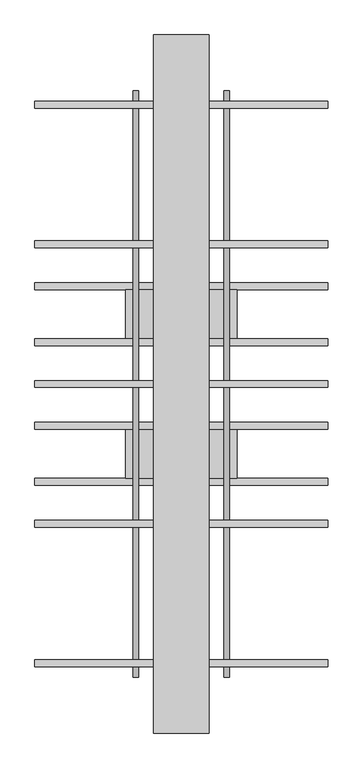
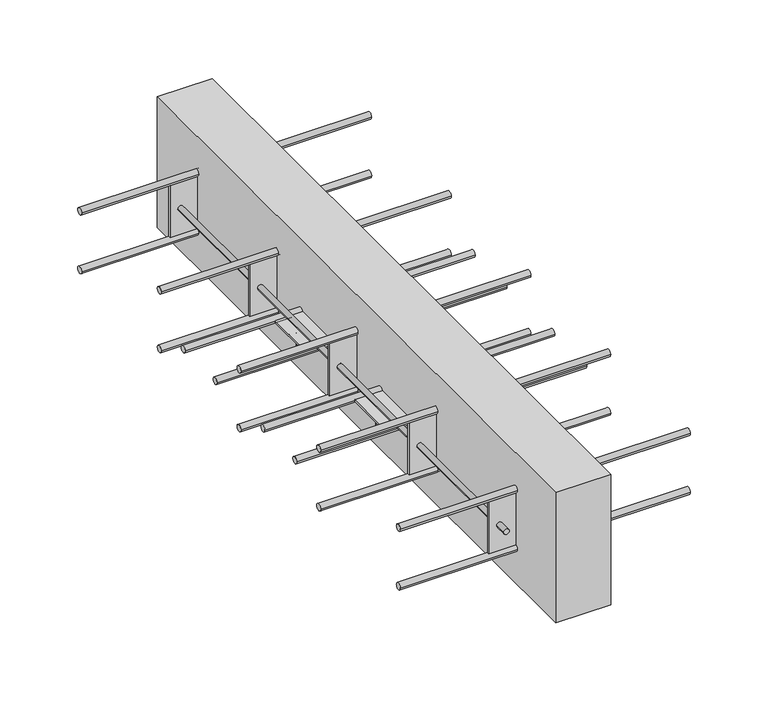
"""IFC4 building model written with IfcOpenShell, lengths in millimetres: proxy geometry, ACINOXplus_Typenreihe_Q : QD+ S2."""

from ifc_helpers import new_model, si_unit, point, frame, frame_2d, origin, place, context, project, spatial, polyline, circle_curve, trimmed, segment, composite_curve, outline, extrude, source, transform, mapped, element, save
from ifc_brep_helpers import plane_surface, cylinder_surface, advanced_brep


def generic_models_195bd89e(model_context):
    return source(origin(), model_context, "Body", "SolidModel", [
        extrude(outline(composite_curve([segment(trimmed(circle_curve(frame_2d((-140.0, -109.0)), 5.0), [point((-145.0, -109.0))], [point((-135.0, -109.0))], False, "CARTESIAN"), True, "CONTINUOUS"), segment(trimmed(circle_curve(frame_2d((-140.0, -109.0)), 5.0), [point((-135.0, -109.0))], [point((-145.0, -109.0))], False, "CARTESIAN"), True, "CONTINUOUS")], self_intersect=False)), frame((-210.0, 0.0, 0.0), z_axis=(1.0, 0.0, 0.0), x_axis=(0.0, 1.0, 0.0)), (0.0, 0.0, 1.0), 420.0),
        extrude(outline(composite_curve([segment(trimmed(circle_curve(frame_2d((-60.0, -109.0)), 5.0), [point((-65.0, -109.0))], [point((-55.0, -109.0))], False, "CARTESIAN"), True, "CONTINUOUS"), segment(trimmed(circle_curve(frame_2d((-60.0, -109.0)), 5.0), [point((-55.0, -109.0))], [point((-65.0, -109.0))], False, "CARTESIAN"), True, "CONTINUOUS")], self_intersect=False)), frame((-210.0, 0.0, 0.0), z_axis=(1.0, 0.0, 0.0), x_axis=(0.0, 1.0, 0.0)), (0.0, 0.0, 1.0), 420.0),
        advanced_brep(
        [(-69.0, -100.0, -137.0), (-61.0, -100.0, -137.0), (61.0, -100.0, -137.0), (69.0, -100.0, -137.0), (-61.0, -100.0, -110.5), (-69.0, -100.0, -110.5), (69.0, -100.0, -110.5), (61.0, -100.0, -110.5), (80.0, -65.0, -107.5), (-80.0, -65.0, -107.5), (-80.0, -135.0, -107.5), (80.0, -135.0, -107.5), (80.0, -65.0, -110.5), (80.0, -135.0, -110.5), (-80.0, -135.0, -110.5), (-80.0, -65.0, -110.5)],
        [
            (0, 1, circle_curve(frame((-65.0, -100.0, -137.0), z_axis=(0.0, 0.0, -1.0), x_axis=(1.0, 0.0, 0.0)), 4.0)),
            (1, 0, circle_curve(frame((-65.0, -100.0, -137.0), z_axis=(0.0, 0.0, -1.0), x_axis=(1.0, 0.0, 0.0)), 4.0)),
            (2, 3, circle_curve(frame((65.0, -100.0, -137.0), z_axis=(0.0, 0.0, -1.0), x_axis=(1.0, 0.0, 0.0)), 4.0)),
            (3, 2, circle_curve(frame((65.0, -100.0, -137.0), z_axis=(0.0, 0.0, -1.0), x_axis=(1.0, 0.0, 0.0)), 4.0)),
            (1, 4),
            (4, 5, circle_curve(frame((-65.0, -100.0, -110.5), z_axis=(0.0, 0.0, -1.0), x_axis=(1.0, 0.0, 0.0)), 4.0)),
            (5, 0),
            (5, 4, circle_curve(frame((-65.0, -100.0, -110.5), z_axis=(0.0, 0.0, -1.0), x_axis=(1.0, 0.0, 0.0)), 4.0)),
            (3, 6),
            (6, 7, circle_curve(frame((65.0, -100.0, -110.5), z_axis=(0.0, 0.0, -1.0), x_axis=(1.0, 0.0, 0.0)), 4.0)),
            (7, 2),
            (7, 6, circle_curve(frame((65.0, -100.0, -110.5), z_axis=(0.0, 0.0, -1.0), x_axis=(1.0, 0.0, 0.0)), 4.0)),
            (8, 9),
            (9, 10),
            (10, 11),
            (11, 8),
            (12, 13),
            (13, 14),
            (14, 15),
            (15, 12),
            (8, 12),
            (15, 9),
            (14, 10),
            (13, 11),
        ],
        [
            plane_surface(frame((-61.0, -100.0, -137.0), z_axis=(0.0, 0.0, -1.0), x_axis=(0.0, -1.0, 0.0))),
            cylinder_surface(frame((-65.0, -100.0, -137.0), z_axis=(0.0, 0.0, 1.0), x_axis=(1.0, 0.0, 0.0)), 4.0),
            cylinder_surface(frame((65.0, -100.0, -109.0), z_axis=(0.0, 0.0, 1.0), x_axis=(1.0, 0.0, 0.0)), 4.0),
            plane_surface(frame((-80.0, -65.0, -107.5), z_axis=(0.0, 0.0, 1.0), x_axis=(-1.0, 0.0, 0.0))),
            plane_surface(frame((-80.0, -65.0, -110.5), z_axis=(0.0, 0.0, -1.0), x_axis=(1.0, 0.0, 0.0))),
            plane_surface(frame((80.0, -65.0, -107.5), z_axis=(0.0, 1.0, 0.0), x_axis=(0.0, 0.0, -1.0))),
            plane_surface(frame((-80.0, -65.0, -107.5), z_axis=(-1.0, 0.0, 0.0), x_axis=(0.0, 0.0, -1.0))),
            plane_surface(frame((-80.0, -135.0, -107.5), z_axis=(0.0, -1.0, 0.0), x_axis=(0.0, 0.0, -1.0))),
            plane_surface(frame((80.0, -135.0, -107.5), z_axis=(1.0, 0.0, 0.0), x_axis=(0.0, 0.0, -1.0))),
        ],
        [
            (0, [[1, 2]]),
            (0, [[3, 4]]),
            (1, [[-2, 5, 6, 7]]),
            (1, [[-1, -7, 8, -5]]),
            (2, [[-4, 9, 10, 11]]),
            (2, [[-3, -11, 12, -9]]),
            (3, [[13, 14, 15, 16]]),
            (4, [[17, 18, 19, 20], [-6, -8], [-10, -12]]),
            (5, [[-13, 21, -20, 22]]),
            (6, [[-14, -22, -19, 23]]),
            (7, [[-15, -23, -18, 24]]),
            (8, [[-16, -24, -17, -21]]),
        ],
    ),
        extrude(outline(composite_curve([segment(trimmed(circle_curve(frame_2d((60.0, -109.0)), 5.0), [point((55.0, -109.0))], [point((65.0, -109.0))], False, "CARTESIAN"), True, "CONTINUOUS"), segment(trimmed(circle_curve(frame_2d((60.0, -109.0)), 5.0), [point((65.0, -109.0))], [point((55.0, -109.0))], False, "CARTESIAN"), True, "CONTINUOUS")], self_intersect=False)), frame((-210.0, 0.0, 0.0), z_axis=(1.0, 0.0, 0.0), x_axis=(0.0, 1.0, 0.0)), (0.0, 0.0, 1.0), 420.0),
        extrude(outline(composite_curve([segment(trimmed(circle_curve(frame_2d((140.0, -109.0)), 5.0), [point((135.0, -109.0))], [point((145.0, -109.0))], False, "CARTESIAN"), True, "CONTINUOUS"), segment(trimmed(circle_curve(frame_2d((140.0, -109.0)), 5.0), [point((145.0, -109.0))], [point((135.0, -109.0))], False, "CARTESIAN"), True, "CONTINUOUS")], self_intersect=False)), frame((-210.0, 0.0, 0.0), z_axis=(1.0, 0.0, 0.0), x_axis=(0.0, 1.0, 0.0)), (0.0, 0.0, 1.0), 420.0),
        advanced_brep(
        [(-69.0, 100.0, -137.0), (-61.0, 100.0, -137.0), (61.0, 100.0, -137.0), (69.0, 100.0, -137.0), (-61.0, 100.0, -110.5), (-69.0, 100.0, -110.5), (69.0, 100.0, -110.5), (61.0, 100.0, -110.5), (80.0, 135.0, -107.5), (-80.0, 135.0, -107.5), (-80.0, 65.0, -107.5), (80.0, 65.0, -107.5), (80.0, 135.0, -110.5), (80.0, 65.0, -110.5), (-80.0, 65.0, -110.5), (-80.0, 135.0, -110.5)],
        [
            (0, 1, circle_curve(frame((-65.0, 100.0, -137.0), z_axis=(0.0, 0.0, -1.0), x_axis=(1.0, 0.0, 0.0)), 4.0)),
            (1, 0, circle_curve(frame((-65.0, 100.0, -137.0), z_axis=(0.0, 0.0, -1.0), x_axis=(1.0, 0.0, 0.0)), 4.0)),
            (2, 3, circle_curve(frame((65.0, 100.0, -137.0), z_axis=(0.0, 0.0, -1.0), x_axis=(1.0, 0.0, 0.0)), 4.0)),
            (3, 2, circle_curve(frame((65.0, 100.0, -137.0), z_axis=(0.0, 0.0, -1.0), x_axis=(1.0, 0.0, 0.0)), 4.0)),
            (1, 4),
            (4, 5, circle_curve(frame((-65.0, 100.0, -110.5), z_axis=(0.0, 0.0, -1.0), x_axis=(1.0, 0.0, 0.0)), 4.0)),
            (5, 0),
            (5, 4, circle_curve(frame((-65.0, 100.0, -110.5), z_axis=(0.0, 0.0, -1.0), x_axis=(1.0, 0.0, 0.0)), 4.0)),
            (3, 6),
            (6, 7, circle_curve(frame((65.0, 100.0, -110.5), z_axis=(0.0, 0.0, -1.0), x_axis=(1.0, 0.0, 0.0)), 4.0)),
            (7, 2),
            (7, 6, circle_curve(frame((65.0, 100.0, -110.5), z_axis=(0.0, 0.0, -1.0), x_axis=(1.0, 0.0, 0.0)), 4.0)),
            (8, 9),
            (9, 10),
            (10, 11),
            (11, 8),
            (12, 13),
            (13, 14),
            (14, 15),
            (15, 12),
            (8, 12),
            (15, 9),
            (14, 10),
            (13, 11),
        ],
        [
            plane_surface(frame((-61.0, 100.0, -137.0), z_axis=(0.0, 0.0, -1.0), x_axis=(0.0, -1.0, 0.0))),
            cylinder_surface(frame((-65.0, 100.0, -137.0), z_axis=(0.0, 0.0, 1.0), x_axis=(1.0, 0.0, 0.0)), 4.0),
            cylinder_surface(frame((65.0, 100.0, -109.0), z_axis=(0.0, 0.0, 1.0), x_axis=(1.0, 0.0, 0.0)), 4.0),
            plane_surface(frame((-80.0, 135.0, -107.5), z_axis=(0.0, 0.0, 1.0), x_axis=(-1.0, 0.0, 0.0))),
            plane_surface(frame((-80.0, 135.0, -110.5), z_axis=(0.0, 0.0, -1.0), x_axis=(1.0, 0.0, 0.0))),
            plane_surface(frame((80.0, 135.0, -107.5), z_axis=(0.0, 1.0, 0.0), x_axis=(0.0, 0.0, -1.0))),
            plane_surface(frame((-80.0, 135.0, -107.5), z_axis=(-1.0, 0.0, 0.0), x_axis=(0.0, 0.0, -1.0))),
            plane_surface(frame((-80.0, 65.0, -107.5), z_axis=(0.0, -1.0, 0.0), x_axis=(0.0, 0.0, -1.0))),
            plane_surface(frame((80.0, 65.0, -107.5), z_axis=(1.0, 0.0, 0.0), x_axis=(0.0, 0.0, -1.0))),
        ],
        [
            (0, [[1, 2]]),
            (0, [[3, 4]]),
            (1, [[-2, 5, 6, 7]]),
            (1, [[-1, -7, 8, -5]]),
            (2, [[-4, 9, 10, 11]]),
            (2, [[-3, -11, 12, -9]]),
            (3, [[13, 14, 15, 16]]),
            (4, [[17, 18, 19, 20], [-6, -8], [-10, -12]]),
            (5, [[-13, 21, -20, 22]]),
            (6, [[-14, -22, -19, 23]]),
            (7, [[-15, -23, -18, 24]]),
            (8, [[-16, -24, -17, -21]]),
        ],
    ),
        extrude(outline(polyline([(40.0, 500.0), (40.0, -500.0), (-40.0, -500.0), (-40.0, 500.0), (40.0, 500.0)])), frame((0.0, 0.0, -200.0), z_axis=(0.0, 0.0, 1.0), x_axis=(1.0, 0.0, 0.0)), (0.0, 0.0, 1.0), 200.0),
        extrude(outline(polyline([(80.0, -198.5), (80.0, -201.5), (-80.0, -201.5), (-80.0, -198.5), (80.0, -198.5)])), frame((0.0, 0.0, -140.0), z_axis=(0.0, 0.0, 1.0), x_axis=(1.0, 0.0, 0.0)), (0.0, 0.0, 1.0), 80.0),
        extrude(outline(polyline([(80.0, 1.5), (80.0, -1.5), (-80.0, -1.5), (-80.0, 1.5), (80.0, 1.5)])), frame((0.0, 0.0, -140.0), z_axis=(0.0, 0.0, 1.0), x_axis=(1.0, 0.0, 0.0)), (0.0, 0.0, 1.0), 80.0),
        extrude(outline(polyline([(80.0, 201.5), (80.0, 198.5), (-80.0, 198.5), (-80.0, 201.5), (80.0, 201.5)])), frame((0.0, 0.0, -140.0), z_axis=(0.0, 0.0, 1.0), x_axis=(1.0, 0.0, 0.0)), (0.0, 0.0, 1.0), 80.0),
        extrude(outline(polyline([(80.0, -398.5), (80.0, -401.5), (-80.0, -401.5), (-80.0, -398.5), (80.0, -398.5)])), frame((0.0, 0.0, -140.0), z_axis=(0.0, 0.0, 1.0), x_axis=(1.0, 0.0, 0.0)), (0.0, 0.0, 1.0), 80.0),
        extrude(outline(polyline([(80.0, 401.5), (80.0, 398.5), (-80.0, 398.5), (-80.0, 401.5), (80.0, 401.5)])), frame((0.0, 0.0, -140.0), z_axis=(0.0, 0.0, 1.0), x_axis=(1.0, 0.0, 0.0)), (0.0, 0.0, 1.0), 80.0),
        extrude(outline(composite_curve([segment(trimmed(circle_curve(frame_2d((-100.0, -65.0)), 4.0), [point((-100.0, -69.0))], [point((-100.0, -61.0))], False, "CARTESIAN"), True, "CONTINUOUS"), segment(trimmed(circle_curve(frame_2d((-100.0, -65.0)), 4.0), [point((-100.0, -61.0))], [point((-100.0, -69.0))], False, "CARTESIAN"), True, "CONTINUOUS")], self_intersect=False)), frame((0.0, -398.5, 0.0), z_axis=(0.0, 1.0, 0.0), x_axis=(0.0, 0.0, 1.0)), (0.0, 0.0, 1.0), 597.0),
        extrude(outline(composite_curve([segment(trimmed(circle_curve(frame_2d((-100.0, -65.0)), 4.0), [point((-100.0, -69.0))], [point((-100.0, -61.0))], False, "CARTESIAN"), True, "CONTINUOUS"), segment(trimmed(circle_curve(frame_2d((-100.0, -65.0)), 4.0), [point((-100.0, -61.0))], [point((-100.0, -69.0))], False, "CARTESIAN"), True, "CONTINUOUS")], self_intersect=False)), frame((0.0, 401.5, 0.0), z_axis=(0.0, 1.0, 0.0), x_axis=(0.0, 0.0, 1.0)), (0.0, 0.0, 1.0), 18.5),
        extrude(outline(composite_curve([segment(trimmed(circle_curve(frame_2d((-100.0, -65.0)), 4.0), [point((-100.0, -61.0))], [point((-100.0, -69.0))], False, "CARTESIAN"), True, "CONTINUOUS"), segment(trimmed(circle_curve(frame_2d((-100.0, -65.0)), 4.0), [point((-100.0, -69.0))], [point((-100.0, -61.0))], False, "CARTESIAN"), True, "CONTINUOUS")], self_intersect=False)), frame((0.0, -420.0, 0.0), z_axis=(0.0, 1.0, 0.0), x_axis=(0.0, 0.0, 1.0)), (0.0, 0.0, 1.0), 18.5),
        extrude(outline(composite_curve([segment(trimmed(circle_curve(frame_2d((-100.0, -65.0)), 4.0), [point((-100.0, -69.0))], [point((-100.0, -61.0))], False, "CARTESIAN"), True, "CONTINUOUS"), segment(trimmed(circle_curve(frame_2d((-100.0, -65.0)), 4.0), [point((-100.0, -61.0))], [point((-100.0, -69.0))], False, "CARTESIAN"), True, "CONTINUOUS")], self_intersect=False)), frame((0.0, 201.5, 0.0), z_axis=(0.0, 1.0, 0.0), x_axis=(0.0, 0.0, 1.0)), (0.0, 0.0, 1.0), 197.0),
        extrude(outline(composite_curve([segment(trimmed(circle_curve(frame_2d((-100.0, 65.0)), 4.0), [point((-100.0, 61.0))], [point((-100.0, 69.0))], False, "CARTESIAN"), True, "CONTINUOUS"), segment(trimmed(circle_curve(frame_2d((-100.0, 65.0)), 4.0), [point((-100.0, 69.0))], [point((-100.0, 61.0))], False, "CARTESIAN"), True, "CONTINUOUS")], self_intersect=False)), frame((0.0, -398.5, 0.0), z_axis=(0.0, 1.0, 0.0), x_axis=(0.0, 0.0, 1.0)), (0.0, 0.0, 1.0), 597.0),
        extrude(outline(composite_curve([segment(trimmed(circle_curve(frame_2d((-100.0, 65.0)), 4.0), [point((-100.0, 61.0))], [point((-100.0, 69.0))], False, "CARTESIAN"), True, "CONTINUOUS"), segment(trimmed(circle_curve(frame_2d((-100.0, 65.0)), 4.0), [point((-100.0, 69.0))], [point((-100.0, 61.0))], False, "CARTESIAN"), True, "CONTINUOUS")], self_intersect=False)), frame((0.0, 401.5, 0.0), z_axis=(0.0, 1.0, 0.0), x_axis=(0.0, 0.0, 1.0)), (0.0, 0.0, 1.0), 18.5),
        extrude(outline(composite_curve([segment(trimmed(circle_curve(frame_2d((-100.0, 65.0)), 4.0), [point((-100.0, 69.0))], [point((-100.0, 61.0))], False, "CARTESIAN"), True, "CONTINUOUS"), segment(trimmed(circle_curve(frame_2d((-100.0, 65.0)), 4.0), [point((-100.0, 61.0))], [point((-100.0, 69.0))], False, "CARTESIAN"), True, "CONTINUOUS")], self_intersect=False)), frame((0.0, -420.0, 0.0), z_axis=(0.0, 1.0, 0.0), x_axis=(0.0, 0.0, 1.0)), (0.0, 0.0, 1.0), 18.5),
        extrude(outline(composite_curve([segment(trimmed(circle_curve(frame_2d((-100.0, 65.0)), 4.0), [point((-100.0, 61.0))], [point((-100.0, 69.0))], False, "CARTESIAN"), True, "CONTINUOUS"), segment(trimmed(circle_curve(frame_2d((-100.0, 65.0)), 4.0), [point((-100.0, 69.0))], [point((-100.0, 61.0))], False, "CARTESIAN"), True, "CONTINUOUS")], self_intersect=False)), frame((0.0, 201.5, 0.0), z_axis=(0.0, 1.0, 0.0), x_axis=(0.0, 0.0, 1.0)), (0.0, 0.0, 1.0), 197.0),
        extrude(outline(composite_curve([segment(trimmed(circle_curve(frame_2d((0.0, -145.0)), 5.0), [point((-5.0, -145.0))], [point((5.0, -145.0))], False, "CARTESIAN"), True, "CONTINUOUS"), segment(trimmed(circle_curve(frame_2d((0.0, -145.0)), 5.0), [point((5.0, -145.0))], [point((-5.0, -145.0))], False, "CARTESIAN"), True, "CONTINUOUS")], self_intersect=False)), frame((-210.0, 0.0, 0.0), z_axis=(1.0, 0.0, 0.0), x_axis=(0.0, 1.0, 0.0)), (0.0, 0.0, 1.0), 420.0),
        extrude(outline(composite_curve([segment(trimmed(circle_curve(frame_2d((200.0, -145.0)), 5.0), [point((195.0, -145.0))], [point((205.0, -145.0))], False, "CARTESIAN"), True, "CONTINUOUS"), segment(trimmed(circle_curve(frame_2d((200.0, -145.0)), 5.0), [point((205.0, -145.0))], [point((195.0, -145.0))], False, "CARTESIAN"), True, "CONTINUOUS")], self_intersect=False)), frame((-210.0, 0.0, 0.0), z_axis=(1.0, 0.0, 0.0), x_axis=(0.0, 1.0, 0.0)), (0.0, 0.0, 1.0), 420.0),
        extrude(outline(composite_curve([segment(trimmed(circle_curve(frame_2d((400.0, -145.0)), 5.0), [point((395.0, -145.0))], [point((405.0, -145.0))], False, "CARTESIAN"), True, "CONTINUOUS"), segment(trimmed(circle_curve(frame_2d((400.0, -145.0)), 5.0), [point((405.0, -145.0))], [point((395.0, -145.0))], False, "CARTESIAN"), True, "CONTINUOUS")], self_intersect=False)), frame((-210.0, 0.0, 0.0), z_axis=(1.0, 0.0, 0.0), x_axis=(0.0, 1.0, 0.0)), (0.0, 0.0, 1.0), 420.0),
        extrude(outline(composite_curve([segment(trimmed(circle_curve(frame_2d((-200.0, -145.0)), 5.0), [point((-205.0, -145.0))], [point((-195.0, -145.0))], False, "CARTESIAN"), True, "CONTINUOUS"), segment(trimmed(circle_curve(frame_2d((-200.0, -145.0)), 5.0), [point((-195.0, -145.0))], [point((-205.0, -145.0))], False, "CARTESIAN"), True, "CONTINUOUS")], self_intersect=False)), frame((-210.0, 0.0, 0.0), z_axis=(1.0, 0.0, 0.0), x_axis=(0.0, 1.0, 0.0)), (0.0, 0.0, 1.0), 420.0),
        extrude(outline(composite_curve([segment(trimmed(circle_curve(frame_2d((-400.0, -145.0)), 5.0), [point((-405.0, -145.0))], [point((-395.0, -145.0))], False, "CARTESIAN"), True, "CONTINUOUS"), segment(trimmed(circle_curve(frame_2d((-400.0, -145.0)), 5.0), [point((-395.0, -145.0))], [point((-405.0, -145.0))], False, "CARTESIAN"), True, "CONTINUOUS")], self_intersect=False)), frame((-210.0, 0.0, 0.0), z_axis=(1.0, 0.0, 0.0), x_axis=(0.0, 1.0, 0.0)), (0.0, 0.0, 1.0), 420.0),
        extrude(outline(composite_curve([segment(trimmed(circle_curve(frame_2d((0.0, -55.0)), 5.0), [point((-5.0, -55.0))], [point((5.0, -55.0))], False, "CARTESIAN"), True, "CONTINUOUS"), segment(trimmed(circle_curve(frame_2d((0.0, -55.0)), 5.0), [point((5.0, -55.0))], [point((-5.0, -55.0))], False, "CARTESIAN"), True, "CONTINUOUS")], self_intersect=False)), frame((-210.0, 0.0, 0.0), z_axis=(1.0, 0.0, 0.0), x_axis=(0.0, 1.0, 0.0)), (0.0, 0.0, 1.0), 420.0),
        extrude(outline(composite_curve([segment(trimmed(circle_curve(frame_2d((200.0, -55.0)), 5.0), [point((195.0, -55.0))], [point((205.0, -55.0))], False, "CARTESIAN"), True, "CONTINUOUS"), segment(trimmed(circle_curve(frame_2d((200.0, -55.0)), 5.0), [point((205.0, -55.0))], [point((195.0, -55.0))], False, "CARTESIAN"), True, "CONTINUOUS")], self_intersect=False)), frame((-210.0, 0.0, 0.0), z_axis=(1.0, 0.0, 0.0), x_axis=(0.0, 1.0, 0.0)), (0.0, 0.0, 1.0), 420.0),
        extrude(outline(composite_curve([segment(trimmed(circle_curve(frame_2d((400.0, -55.0)), 5.0), [point((395.0, -55.0))], [point((405.0, -55.0))], False, "CARTESIAN"), True, "CONTINUOUS"), segment(trimmed(circle_curve(frame_2d((400.0, -55.0)), 5.0), [point((405.0, -55.0))], [point((395.0, -55.0))], False, "CARTESIAN"), True, "CONTINUOUS")], self_intersect=False)), frame((-210.0, 0.0, 0.0), z_axis=(1.0, 0.0, 0.0), x_axis=(0.0, 1.0, 0.0)), (0.0, 0.0, 1.0), 420.0),
        extrude(outline(composite_curve([segment(trimmed(circle_curve(frame_2d((-200.0, -55.0)), 5.0), [point((-205.0, -55.0))], [point((-195.0, -55.0))], False, "CARTESIAN"), True, "CONTINUOUS"), segment(trimmed(circle_curve(frame_2d((-200.0, -55.0)), 5.0), [point((-195.0, -55.0))], [point((-205.0, -55.0))], False, "CARTESIAN"), True, "CONTINUOUS")], self_intersect=False)), frame((-210.0, 0.0, 0.0), z_axis=(1.0, 0.0, 0.0), x_axis=(0.0, 1.0, 0.0)), (0.0, 0.0, 1.0), 420.0),
        extrude(outline(composite_curve([segment(trimmed(circle_curve(frame_2d((-400.0, -55.0)), 5.0), [point((-405.0, -55.0))], [point((-395.0, -55.0))], False, "CARTESIAN"), True, "CONTINUOUS"), segment(trimmed(circle_curve(frame_2d((-400.0, -55.0)), 5.0), [point((-395.0, -55.0))], [point((-405.0, -55.0))], False, "CARTESIAN"), True, "CONTINUOUS")], self_intersect=False)), frame((-210.0, 0.0, 0.0), z_axis=(1.0, 0.0, 0.0), x_axis=(0.0, 1.0, 0.0)), (0.0, 0.0, 1.0), 420.0),
    ])


if __name__ == "__main__":
    model = new_model("IFC4")
    model_context = context("Model", 3, world=origin())
    ifc_project = project(units=[si_unit("LENGTHUNIT", "METRE", prefix="MILLI")], contexts=[model_context])
    site = spatial("IfcSite", under=ifc_project)
    building = spatial("IfcBuilding", under=site)
    placement = place(None, origin())
    generic_models_shape = generic_models_195bd89e(model_context)
    element("IfcBuildingElementProxy", 1, Name="ACINOXplus_Typenreihe_Q : QD+ S2", ObjectType="ACINOXplus_Typenreihe_Q : QD+ S2", at=placement, inside=building, context=model_context, shape_type="MappedRepresentation", body=[
        mapped(generic_models_shape, transform((0.0, 0.0, 0.0), x_axis=(1.0, 0.0, 0.0), y_axis=(0.0, 1.0, 0.0), z_axis=(0.0, 0.0, 1.0))),
    ])
    save(model, "model.ifc")
